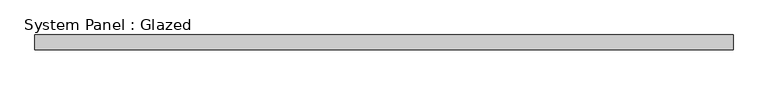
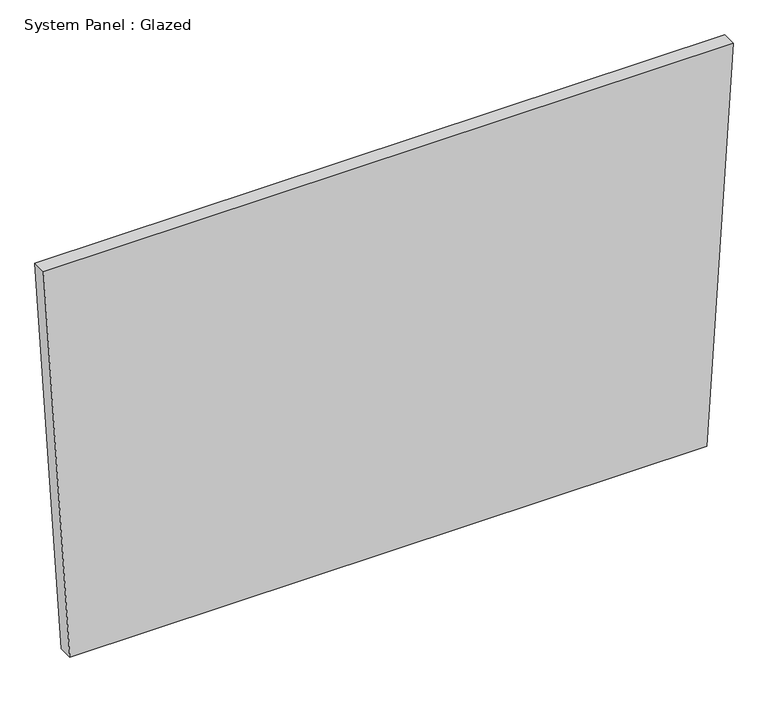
"""IFC4 building model written with IfcOpenShell, lengths in millimetres: plate geometry, System Panel : Glazed."""

from ifc_helpers import new_model, si_unit, frame, origin, place, context, project, spatial, polyline, outline, extrude, source, transform, mapped, element, save


def system_panel_glazed_34d42b5f(model_context):
    return source(origin(), model_context, "Body", "SweptSolid", [
        extrude(outline(polyline([(0.0009631, -553.081009), (0.0, 553.0808811), (723.4660191, 598.7570921), (723.464957, -598.7570921), (0.0009631, -553.081009)])), frame((0.0, 19.05, 0.0), z_axis=(0.0, 1.0, 0.0), x_axis=(0.0, 0.0, 1.0)), (0.0, 0.0, 1.0), 25.4),
    ])


if __name__ == "__main__":
    model = new_model("IFC4")
    model_context = context("Model", 3, world=origin())
    ifc_project = project(units=[si_unit("LENGTHUNIT", "METRE", prefix="MILLI")], contexts=[model_context])
    site = spatial("IfcSite", under=ifc_project)
    building = spatial("IfcBuilding", under=site)
    placement = place(None, origin())
    system_panel_glazed_shape = system_panel_glazed_34d42b5f(model_context)
    element("IfcPlate", 1, ObjectType="System Panel : Glazed", at=placement, inside=building, context=model_context, shape_type="MappedRepresentation", body=[
        mapped(system_panel_glazed_shape, transform((0.0, 0.0, 0.0), x_axis=(1.0, 0.0, 0.0), y_axis=(0.0, 1.0, 0.0), z_axis=(0.0, 0.0, 1.0))),
    ])
    save(model, "model.ifc")
